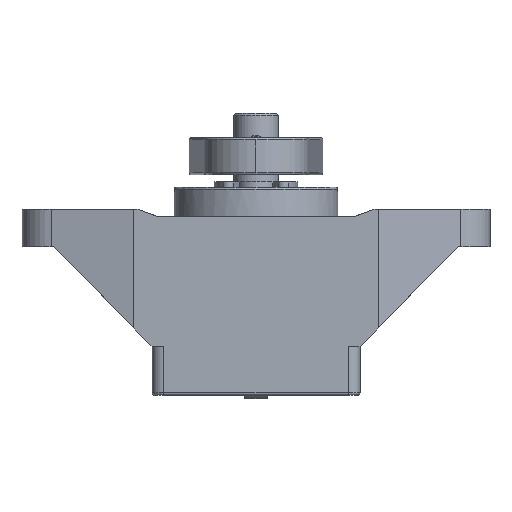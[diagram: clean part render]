
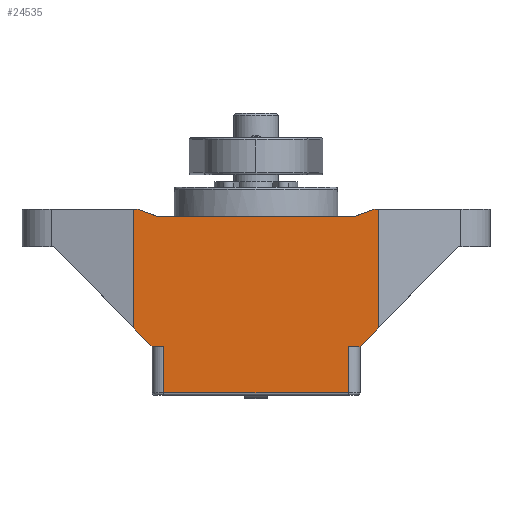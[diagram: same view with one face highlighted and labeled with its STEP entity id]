
A CAD part, front view. The second image highlights one B-rep face of the part: STEP entity #24535.
In plain terms, the highlighted planar face has unit normal (0, -1, 0).
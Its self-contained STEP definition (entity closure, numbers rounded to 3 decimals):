
#47 = CARTESIAN_POINT ( 'NONE',  ( -8.9, -13., -4. ) ) ;
#137 = LINE ( 'NONE', #665, #5890 ) ;
#445 = DIRECTION ( 'NONE',  ( 0., 0., -1. ) ) ;
#519 = DIRECTION ( 'NONE',  ( -0.699, 0., 0.715 ) ) ;
#547 = ORIENTED_EDGE ( 'NONE', *, *, #1991, .F. ) ;
#665 = CARTESIAN_POINT ( 'NONE',  ( -12.4, -13., -19.237 ) ) ;
#1104 = VECTOR ( 'NONE', #12866, 1000. ) ;
#1756 = VECTOR ( 'NONE', #17168, 1000. ) ;
#1991 = EDGE_CURVE ( 'NONE', #14562, #14268, #25161, .T. ) ;
#2163 = ORIENTED_EDGE ( 'NONE', *, *, #12451, .F. ) ;
#2428 = DIRECTION ( 'NONE',  ( 0., -1., 0. ) ) ;
#2487 = EDGE_CURVE ( 'NONE', #19912, #19180, #5848, .T. ) ;
#2517 = VECTOR ( 'NONE', #445, 1000. ) ;
#2520 = DIRECTION ( 'NONE',  ( -0.699, 0., -0.715 ) ) ;
#2711 = VECTOR ( 'NONE', #14989, 1000. ) ;
#2988 = ORIENTED_EDGE ( 'NONE', *, *, #24615, .F. ) ;
#3111 = CARTESIAN_POINT ( 'NONE',  ( -14., -13., -3. ) ) ;
#3197 = VERTEX_POINT ( 'NONE', #21359 ) ;
#3952 = LINE ( 'NONE', #12133, #22286 ) ;
#4298 = ORIENTED_EDGE ( 'NONE', *, *, #14929, .F. ) ;
#4550 = ORIENTED_EDGE ( 'NONE', *, *, #2487, .F. ) ;
#4585 = LINE ( 'NONE', #21227, #8163 ) ;
#5508 = ORIENTED_EDGE ( 'NONE', *, *, #14986, .F. ) ;
#5848 = LINE ( 'NONE', #24795, #15062 ) ;
#5890 = VECTOR ( 'NONE', #8954, 1000. ) ;
#5941 = EDGE_CURVE ( 'NONE', #14562, #21698, #137, .T. ) ;
#7658 = DIRECTION ( 'NONE',  ( 0., 0., 1. ) ) ;
#8163 = VECTOR ( 'NONE', #519, 1000. ) ;
#8514 = CARTESIAN_POINT ( 'NONE',  ( -14., -13., -21.5 ) ) ;
#8633 = ORIENTED_EDGE ( 'NONE', *, *, #26502, .F. ) ;
#8651 = LINE ( 'NONE', #15052, #17983 ) ;
#8954 = DIRECTION ( 'NONE',  ( 0., 0., -1. ) ) ;
#9350 = ORIENTED_EDGE ( 'NONE', *, *, #9722, .T. ) ;
#9473 = EDGE_CURVE ( 'NONE', #25771, #19912, #10377, .T. ) ;
#9722 = EDGE_CURVE ( 'NONE', #21698, #26238, #10860, .T. ) ;
#9807 = ORIENTED_EDGE ( 'NONE', *, *, #26842, .F. ) ;
#9832 = LINE ( 'NONE', #22123, #15572 ) ;
#10220 = LINE ( 'NONE', #12415, #2517 ) ;
#10377 = LINE ( 'NONE', #47, #16541 ) ;
#10731 = DIRECTION ( 'NONE',  ( 0., 0., -1. ) ) ;
#10860 = LINE ( 'NONE', #15084, #13059 ) ;
#11094 = VERTEX_POINT ( 'NONE', #12017 ) ;
#11140 = LINE ( 'NONE', #3111, #1756 ) ;
#11342 = ORIENTED_EDGE ( 'NONE', *, *, #12279, .F. ) ;
#11614 = CARTESIAN_POINT ( 'NONE',  ( -16.5, -13., -8. ) ) ;
#12017 = CARTESIAN_POINT ( 'NONE',  ( 12.4, -13., -21.5 ) ) ;
#12133 = CARTESIAN_POINT ( 'NONE',  ( 14., -13., -21.5 ) ) ;
#12274 = DIRECTION ( 'NONE',  ( -1., 0., 0. ) ) ;
#12279 = EDGE_CURVE ( 'NONE', #20407, #25771, #9832, .T. ) ;
#12394 = LINE ( 'NONE', #14449, #2711 ) ;
#12415 = CARTESIAN_POINT ( 'NONE',  ( 12.4, -13., -19.237 ) ) ;
#12451 = EDGE_CURVE ( 'NONE', #11094, #26238, #10220, .T. ) ;
#12518 = PLANE ( 'NONE',  #13927 ) ;
#12665 = ORIENTED_EDGE ( 'NONE', *, *, #15484, .T. ) ;
#12789 = CARTESIAN_POINT ( 'NONE',  ( -14., -13., -28. ) ) ;
#12866 = DIRECTION ( 'NONE',  ( -1., 0., 0. ) ) ;
#13059 = VECTOR ( 'NONE', #15231, 1000. ) ;
#13536 = LINE ( 'NONE', #11614, #16438 ) ;
#13757 = ORIENTED_EDGE ( 'NONE', *, *, #9473, .F. ) ;
#13927 = AXIS2_PLACEMENT_3D ( 'NONE', #12789, #2428, #10731 ) ;
#14268 = VERTEX_POINT ( 'NONE', #16405 ) ;
#14449 = CARTESIAN_POINT ( 'NONE',  ( 14., -13., -3. ) ) ;
#14562 = VERTEX_POINT ( 'NONE', #18569 ) ;
#14929 = EDGE_CURVE ( 'NONE', #3197, #11094, #3952, .T. ) ;
#14986 = EDGE_CURVE ( 'NONE', #19180, #20315, #12394, .T. ) ;
#14989 = DIRECTION ( 'NONE',  ( 1., 0., 0. ) ) ;
#15052 = CARTESIAN_POINT ( 'NONE',  ( 14., -13., -21.5 ) ) ;
#15062 = VECTOR ( 'NONE', #20301, 1000. ) ;
#15084 = CARTESIAN_POINT ( 'NONE',  ( 12.4, -13., -27.7 ) ) ;
#15176 = CARTESIAN_POINT ( 'NONE',  ( -12.4, -13., -27.7 ) ) ;
#15231 = DIRECTION ( 'NONE',  ( 1., 0., 0. ) ) ;
#15389 = CARTESIAN_POINT ( 'NONE',  ( -13.136, -13., -4. ) ) ;
#15432 = CARTESIAN_POINT ( 'NONE',  ( 16.5, -13., -18.943 ) ) ;
#15484 = EDGE_CURVE ( 'NONE', #19868, #20315, #18352, .T. ) ;
#15572 = VECTOR ( 'NONE', #26482, 1000. ) ;
#15791 = EDGE_CURVE ( 'NONE', #19868, #3197, #8651, .T. ) ;
#16405 = CARTESIAN_POINT ( 'NONE',  ( -14., -13., -21.5 ) ) ;
#16438 = VECTOR ( 'NONE', #7658, 1000. ) ;
#16541 = VECTOR ( 'NONE', #18723, 1000. ) ;
#16667 = VECTOR ( 'NONE', #24208, 1000. ) ;
#17168 = DIRECTION ( 'NONE',  ( 1., 0., 0. ) ) ;
#17983 = VECTOR ( 'NONE', #2520, 1000. ) ;
#18352 = LINE ( 'NONE', #20255, #16667 ) ;
#18423 = ORIENTED_EDGE ( 'NONE', *, *, #15791, .F. ) ;
#18569 = CARTESIAN_POINT ( 'NONE',  ( -12.4, -13., -21.5 ) ) ;
#18695 = ORIENTED_EDGE ( 'NONE', *, *, #5941, .T. ) ;
#18723 = DIRECTION ( 'NONE',  ( 1., 0., 0. ) ) ;
#19071 = VERTEX_POINT ( 'NONE', #24527 ) ;
#19180 = VERTEX_POINT ( 'NONE', #21644 ) ;
#19748 = CARTESIAN_POINT ( 'NONE',  ( -16.5, -13., -18.943 ) ) ;
#19868 = VERTEX_POINT ( 'NONE', #15432 ) ;
#19912 = VERTEX_POINT ( 'NONE', #20591 ) ;
#20255 = CARTESIAN_POINT ( 'NONE',  ( 16.5, -13., -8. ) ) ;
#20301 = DIRECTION ( 'NONE',  ( 0.94, 0., 0.342 ) ) ;
#20315 = VERTEX_POINT ( 'NONE', #23250 ) ;
#20407 = VERTEX_POINT ( 'NONE', #26102 ) ;
#20591 = CARTESIAN_POINT ( 'NONE',  ( 13.136, -13., -4. ) ) ;
#21002 = VERTEX_POINT ( 'NONE', #19748 ) ;
#21227 = CARTESIAN_POINT ( 'NONE',  ( -14., -13., -21.5 ) ) ;
#21359 = CARTESIAN_POINT ( 'NONE',  ( 14., -13., -21.5 ) ) ;
#21644 = CARTESIAN_POINT ( 'NONE',  ( 15.883, -13., -3. ) ) ;
#21698 = VERTEX_POINT ( 'NONE', #15176 ) ;
#22020 = CARTESIAN_POINT ( 'NONE',  ( 12.4, -13., -27.7 ) ) ;
#22123 = CARTESIAN_POINT ( 'NONE',  ( -15.883, -13., -3. ) ) ;
#22286 = VECTOR ( 'NONE', #12274, 1000. ) ;
#23166 = FACE_OUTER_BOUND ( 'NONE', #24826, .T. ) ;
#23250 = CARTESIAN_POINT ( 'NONE',  ( 16.5, -13., -3. ) ) ;
#24208 = DIRECTION ( 'NONE',  ( 0., 0., 1. ) ) ;
#24527 = CARTESIAN_POINT ( 'NONE',  ( -16.5, -13., -3. ) ) ;
#24535 = ADVANCED_FACE ( 'NONE', ( #23166 ), #12518, .T. ) ;
#24615 = EDGE_CURVE ( 'NONE', #19071, #20407, #11140, .T. ) ;
#24795 = CARTESIAN_POINT ( 'NONE',  ( 15.883, -13., -3. ) ) ;
#24826 = EDGE_LOOP ( 'NONE', ( #18695, #9350, #2163, #4298, #18423, #12665, #5508, #4550, #13757, #11342, #2988, #8633, #9807, #547 ) ) ;
#25161 = LINE ( 'NONE', #8514, #1104 ) ;
#25771 = VERTEX_POINT ( 'NONE', #15389 ) ;
#26102 = CARTESIAN_POINT ( 'NONE',  ( -15.883, -13., -3. ) ) ;
#26238 = VERTEX_POINT ( 'NONE', #22020 ) ;
#26482 = DIRECTION ( 'NONE',  ( 0.94, 0., -0.342 ) ) ;
#26502 = EDGE_CURVE ( 'NONE', #21002, #19071, #13536, .T. ) ;
#26842 = EDGE_CURVE ( 'NONE', #14268, #21002, #4585, .T. ) ;
